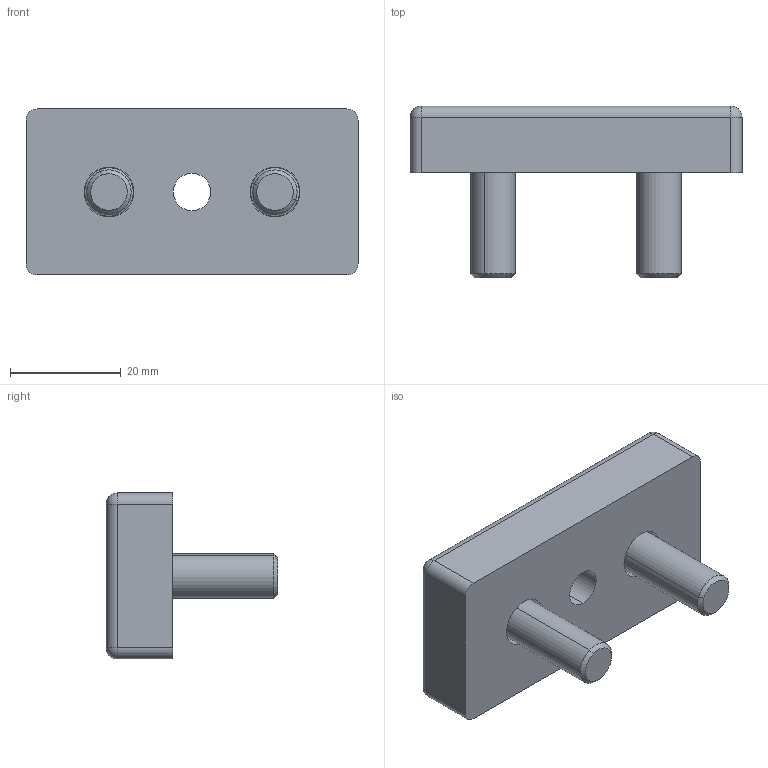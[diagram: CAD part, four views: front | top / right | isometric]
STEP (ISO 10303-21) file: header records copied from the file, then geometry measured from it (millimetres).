
FILE_DESCRIPTION (( 'STEP AP214' ), '1' );
FILE_NAME ('1.5001 Kierrelevy 30x60 M8.STEP', '2026-03-30T05:40:27', ( '' ), ( '' ), 'SwSTEP 2.0', 'SolidWorks 2025', '' );
FILE_SCHEMA (( 'AUTOMOTIVE_DESIGN' ));
Length unit declared in the file: millimetre
Products named in the file (1): 1.5001 Kierrelevy 30x60 M8
Bounding box: 60 x 31 x 30 mm (x, y, z)
Volume: 21864.2 mm3; surface area: 8644.6 mm2
Topology: 3 solids, 3 shells, 86 faces, 190 edges, 108 vertices
Faces by surface type: plane 38, cylinder 26, cone 10, torus 8, sphere 4
Entity records: 2939 total; most frequent: DIRECTION 442, CARTESIAN_POINT 377, ORIENTED_EDGE 364, EDGE_CURVE 182, AXIS2_PLACEMENT_3D 173, VERTEX_POINT 108, EDGE_LOOP 98, LINE 96
